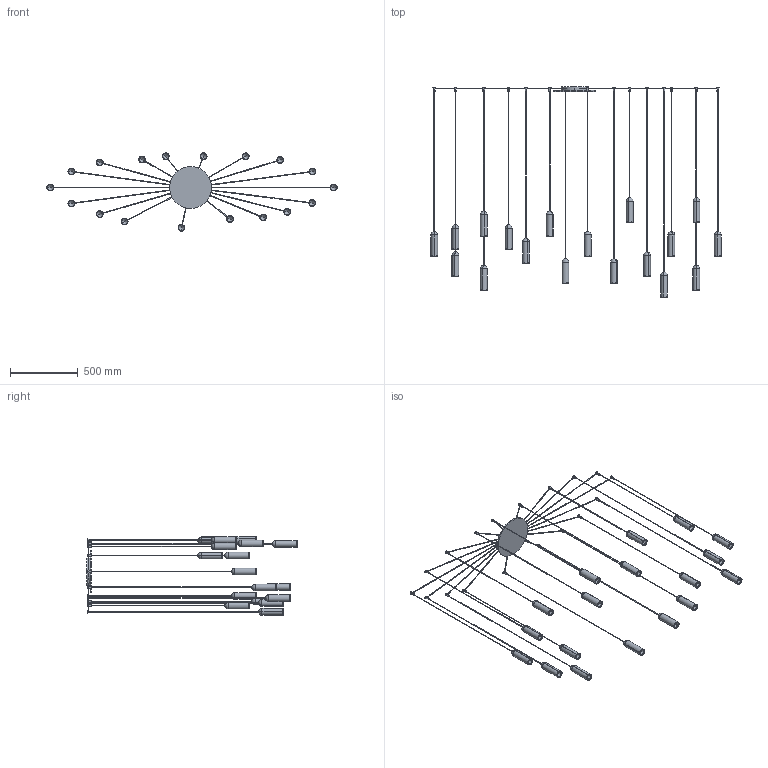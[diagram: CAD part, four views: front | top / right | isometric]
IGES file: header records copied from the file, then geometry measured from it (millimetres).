
Start section: SolidWorks IGES file using analytic representation for surfaces
Global section: file name: Y:\eforma\TECNICO\SOLIDWORKS\E-FORMA\09-LAMPADE\NANUM\02 parts\NANA4-00-NANUM_18 sospensione.IGS; native system: SolidWorks 2022; preprocessor: SolidWorks 2022; author: eforma.tech; date: 250505.163958; units: millimetre
Bounding box: 2146 x 1554.5 x 579.95 mm (x, y, z)
Volume: 3216842.2 mm3; surface area: 1674077.9 mm2
Topology: 55 solids, 55 shells, 663 faces, 1296 edges, 744 vertices
Faces by surface type: revolution 516, plane 147
